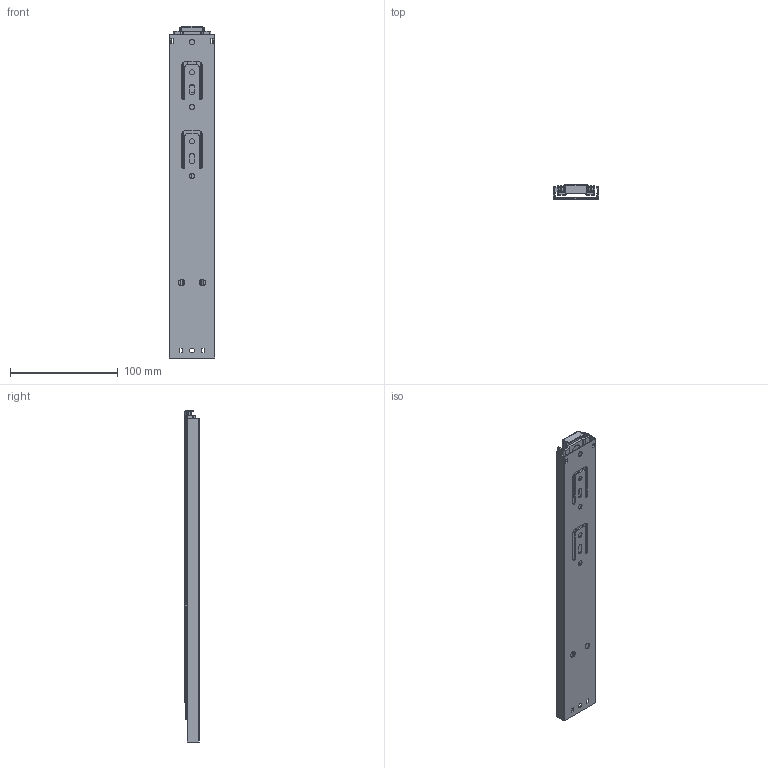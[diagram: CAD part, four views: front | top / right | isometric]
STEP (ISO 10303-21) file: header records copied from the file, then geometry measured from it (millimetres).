
FILE_DESCRIPTION(/* description */ (''),/* implementation_level */ '2;1');
FILE_NAME(/* name */ 'C:\Users\dmitruk\Documents\WORK\\X2\041D0410041F042004100412041B042F042E042904180415\X0\\Шариковые\Push to open\39198-300.stp',/* time_stamp */ '2022-04-19T17:52:51+03:00',/* author */ ('dmitruk'),/* organization */ ('AKS'),/* preprocessor_version */ 'ST-DEVELOPER v16.5',/* originating_system */ 'Autodesk Inventor 2017',/* authorisation */ '');
FILE_SCHEMA (('AUTOMOTIVE_DESIGN { 1 0 10303 214 3 1 1 }'));
Length unit declared in the file: millimetre
Products named in the file (5): 39198-300; 8D; 39198_12; нш300_3; 39198_2
Assembly tree (4 placements, depth 2):
  39198-300
    8D
    39198_12
    нш300_3
    39198_2
Bounding box: 42 x 13 x 308 mm (x, y, z)
Volume: 47418.4 mm3; surface area: 91663.1 mm2
Topology: 4 solids, 4 shells, 559 faces, 1605 edges, 1051 vertices
Faces by surface type: plane 324, cylinder 203, sphere 32
Full cylindrical faces by diameter (mm): 4.5 x1, 4.8 x6, 5 x1, 6 x2, 8 x1
Entity records: 18734 total; most frequent: CARTESIAN_POINT 3379, DIRECTION 3199, ORIENTED_EDGE 3186, EDGE_CURVE 1593, LINE 1087, VECTOR 1087, AXIS2_PLACEMENT_3D 1056, VERTEX_POINT 1050
